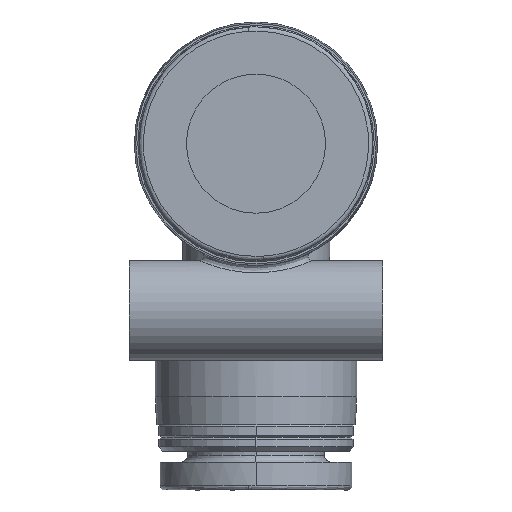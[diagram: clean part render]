
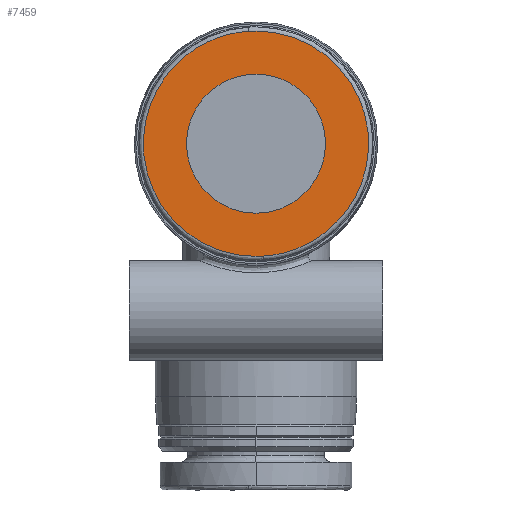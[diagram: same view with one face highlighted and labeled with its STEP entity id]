
A CAD part, left-side view. The second image highlights one B-rep face of the part: STEP entity #7459.
In plain terms, the highlighted planar face has unit normal (-1, 0, 0).
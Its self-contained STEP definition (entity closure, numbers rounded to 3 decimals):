
#143 = EDGE_CURVE ( 'NONE', #634, #2593, #5354, .T. ) ;
#237 = CARTESIAN_POINT ( 'NONE',  ( -25.2, 15.69, 7.081 ) ) ;
#414 = DIRECTION ( 'NONE',  ( 1., 0., 0. ) ) ;
#634 = VERTEX_POINT ( 'NONE', #4519 ) ;
#911 = EDGE_CURVE ( 'NONE', #1550, #3751, #7042, .T. ) ;
#1044 = AXIS2_PLACEMENT_3D ( 'NONE', #1439, #414, #1204 ) ;
#1073 = ORIENTED_EDGE ( 'NONE', *, *, #7856, .T. ) ;
#1204 = DIRECTION ( 'NONE',  ( 0., 0., 1. ) ) ;
#1270 = CARTESIAN_POINT ( 'NONE',  ( -25.2, 0.356, 8.094 ) ) ;
#1282 = DIRECTION ( 'NONE',  ( 0., 0., 1. ) ) ;
#1439 = CARTESIAN_POINT ( 'NONE',  ( -25.2, 0., 0. ) ) ;
#1550 = VERTEX_POINT ( 'NONE', #6414 ) ;
#1729 = EDGE_CURVE ( 'NONE', #3751, #6516, #3706, .T. ) ;
#1894 =( BOUNDED_CURVE ( )  B_SPLINE_CURVE ( 3, ( #7900, #1270, #2600, #7316 ),
 .UNSPECIFIED., .F., .T. ) 
 B_SPLINE_CURVE_WITH_KNOTS ( ( 4, 4 ),
 ( 0.979, 1. ),
 .UNSPECIFIED. ) 
 CURVE ( )  GEOMETRIC_REPRESENTATION_ITEM ( )  RATIONAL_B_SPLINE_CURVE ( ( 1., 1., 1., 1. ) ) 
 REPRESENTATION_ITEM ( '' )  );
#1917 = VERTEX_POINT ( 'NONE', #5775 ) ;
#2214 = ORIENTED_EDGE ( 'NONE', *, *, #911, .F. ) ;
#2396 = EDGE_LOOP ( 'NONE', ( #2214, #7165, #3384, #6558 ) ) ;
#2593 = VERTEX_POINT ( 'NONE', #4250 ) ;
#2600 = CARTESIAN_POINT ( 'NONE',  ( -25.2, 0.178, 8.1 ) ) ;
#2930 = FACE_OUTER_BOUND ( 'NONE', #2396, .T. ) ;
#3034 = CIRCLE ( 'NONE', #4791, 5. ) ;
#3193 = CARTESIAN_POINT ( 'NONE',  ( -25.2, -0.178, -8.1 ) ) ;
#3247 = CARTESIAN_POINT ( 'NONE',  ( -25.2, 0., 0. ) ) ;
#3384 = ORIENTED_EDGE ( 'NONE', *, *, #7600, .F. ) ;
#3518 = CARTESIAN_POINT ( 'NONE',  ( -25.2, 15.189, -8.1 ) ) ;
#3572 = CARTESIAN_POINT ( 'NONE',  ( -25.2, 0., -8.1 ) ) ;
#3613 = AXIS2_PLACEMENT_3D ( 'NONE', #7954, #5296, #1282 ) ;
#3706 =( BOUNDED_CURVE ( )  B_SPLINE_CURVE ( 3, ( #6583, #4510, #3193, #7909 ),
 .UNSPECIFIED., .F., .F. ) 
 B_SPLINE_CURVE_WITH_KNOTS ( ( 4, 4 ),
 ( 0.979, 1. ),
 .UNSPECIFIED. ) 
 CURVE ( )  GEOMETRIC_REPRESENTATION_ITEM ( )  RATIONAL_B_SPLINE_CURVE ( ( 1., 1., 1., 1. ) ) 
 REPRESENTATION_ITEM ( '' )  );
#3751 = VERTEX_POINT ( 'NONE', #4541 ) ;
#3932 = DIRECTION ( 'NONE',  ( 0., 0., 1. ) ) ;
#4250 = CARTESIAN_POINT ( 'NONE',  ( -25.2, 0., 5. ) ) ;
#4510 = CARTESIAN_POINT ( 'NONE',  ( -25.2, -0.356, -8.094 ) ) ;
#4519 = CARTESIAN_POINT ( 'NONE',  ( -25.2, 0., -5. ) ) ;
#4541 = CARTESIAN_POINT ( 'NONE',  ( -25.2, -0.534, -8.082 ) ) ;
#4596 = PLANE ( 'NONE',  #3613 ) ;
#4606 =( BOUNDED_CURVE ( )  B_SPLINE_CURVE ( 3, ( #3572, #3518, #237, #4918 ),
 .UNSPECIFIED., .F., .F. ) 
 B_SPLINE_CURVE_WITH_KNOTS ( ( 4, 4 ),
 ( 0., 0.979 ),
 .UNSPECIFIED. ) 
 CURVE ( )  GEOMETRIC_REPRESENTATION_ITEM ( )  RATIONAL_B_SPLINE_CURVE ( ( 1., 0.355, 0.355, 1. ) ) 
 REPRESENTATION_ITEM ( '' )  );
#4676 = EDGE_LOOP ( 'NONE', ( #1073, #7792 ) ) ;
#4791 = AXIS2_PLACEMENT_3D ( 'NONE', #3247, #7945, #3932 ) ;
#4918 = CARTESIAN_POINT ( 'NONE',  ( -25.2, 0.534, 8.082 ) ) ;
#5296 = DIRECTION ( 'NONE',  ( -1., 0., 0. ) ) ;
#5354 = CIRCLE ( 'NONE', #1044, 5. ) ;
#5775 = CARTESIAN_POINT ( 'NONE',  ( -25.2, 0.534, 8.082 ) ) ;
#6331 = CARTESIAN_POINT ( 'NONE',  ( -25.2, 0., 8.1 ) ) ;
#6373 = CARTESIAN_POINT ( 'NONE',  ( -25.2, -15.189, 8.1 ) ) ;
#6412 = CARTESIAN_POINT ( 'NONE',  ( -25.2, -0.534, -8.082 ) ) ;
#6414 = CARTESIAN_POINT ( 'NONE',  ( -25.2, 0., 8.1 ) ) ;
#6428 = CARTESIAN_POINT ( 'NONE',  ( -25.2, -15.69, -7.081 ) ) ;
#6514 = EDGE_CURVE ( 'NONE', #1917, #1550, #1894, .T. ) ;
#6516 = VERTEX_POINT ( 'NONE', #6666 ) ;
#6558 = ORIENTED_EDGE ( 'NONE', *, *, #1729, .F. ) ;
#6583 = CARTESIAN_POINT ( 'NONE',  ( -25.2, -0.534, -8.082 ) ) ;
#6666 = CARTESIAN_POINT ( 'NONE',  ( -25.2, 0., -8.1 ) ) ;
#6757 = FACE_BOUND ( 'NONE', #4676, .T. ) ;
#7042 =( BOUNDED_CURVE ( )  B_SPLINE_CURVE ( 3, ( #6331, #6373, #6428, #6412 ),
 .UNSPECIFIED., .F., .T. ) 
 B_SPLINE_CURVE_WITH_KNOTS ( ( 4, 4 ),
 ( 0., 0.979 ),
 .UNSPECIFIED. ) 
 CURVE ( )  GEOMETRIC_REPRESENTATION_ITEM ( )  RATIONAL_B_SPLINE_CURVE ( ( 1., 0.355, 0.355, 1. ) ) 
 REPRESENTATION_ITEM ( '' )  );
#7165 = ORIENTED_EDGE ( 'NONE', *, *, #6514, .F. ) ;
#7316 = CARTESIAN_POINT ( 'NONE',  ( -25.2, 0., 8.1 ) ) ;
#7459 = ADVANCED_FACE ( '86', ( #6757, #2930 ), #4596, .T. ) ;
#7600 = EDGE_CURVE ( 'NONE', #6516, #1917, #4606, .T. ) ;
#7792 = ORIENTED_EDGE ( 'NONE', *, *, #143, .T. ) ;
#7856 = EDGE_CURVE ( 'NONE', #2593, #634, #3034, .T. ) ;
#7900 = CARTESIAN_POINT ( 'NONE',  ( -25.2, 0.534, 8.082 ) ) ;
#7909 = CARTESIAN_POINT ( 'NONE',  ( -25.2, 0., -8.1 ) ) ;
#7945 = DIRECTION ( 'NONE',  ( 1., 0., 0. ) ) ;
#7954 = CARTESIAN_POINT ( 'NONE',  ( -25.2, 8.6, -8.6 ) ) ;
